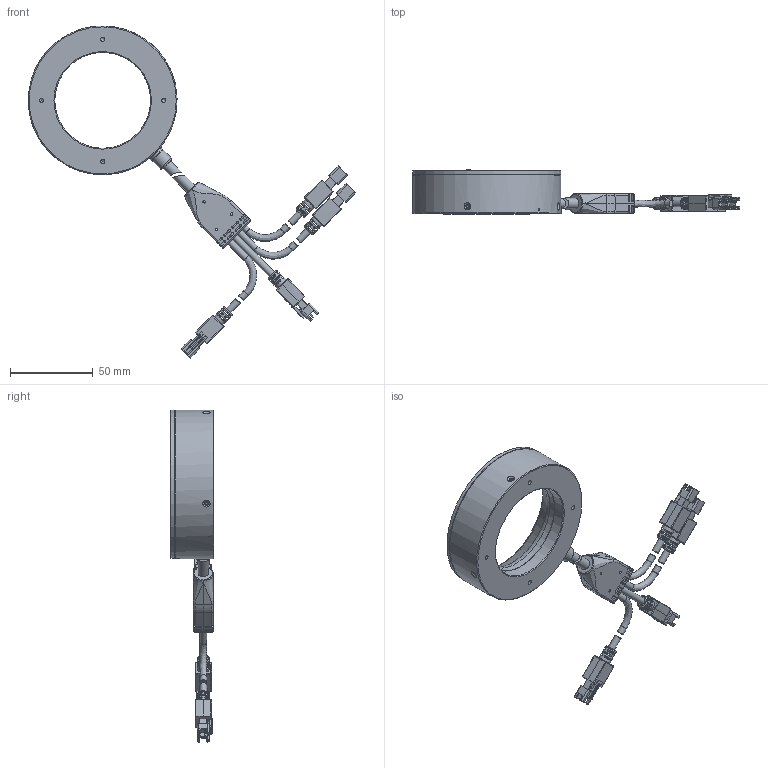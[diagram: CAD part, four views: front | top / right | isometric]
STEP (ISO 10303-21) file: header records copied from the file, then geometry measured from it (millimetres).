
FILE_DESCRIPTION (( 'STEP AP203' ), '1' );
FILE_NAME ('OPT-MSRI9060-X-V1.0尨砩芞.STEP', '2025-02-12T02:45:54', ( '' ), ( '' ), 'SwSTEP 2.0', 'SolidWorks 2016', '' );
FILE_SCHEMA (( 'CONFIG_CONTROL_DESIGN' ));
Length unit declared in the file: millimetre
Products named in the file (1): OPT-MSRI9060-X-V1.0尨砩芞
Bounding box: 197.86 x 26.5 x 200.86 mm (x, y, z)
Surface area: 51827.1 mm2 (no closed solid volume)
Topology: 0 solids, 33 shells, 1024 faces, 2853 edges, 1843 vertices
Faces by surface type: plane 551, cylinder 327, cone 67, bspline 60, torus 19
Full cylindrical faces by diameter (mm): 1.05 x2, 1.1 x6, 1.4 x4, 1.5 x3, 1.6 x4, 1.8 x4, 2 x4, 2.4 x4, 2.5 x4, 2.6 x4, 4.1 x10, 5 x1, 6.4 x2, 7.5 x4, 8.6 x1, 9.3 x1, 9.8 x1, 58 x2, 60 x1, 67.8 x1, 80 x1, 90 x2
Entity records: 39293 total; most frequent: CARTESIAN_POINT 15096, ORIENTED_EDGE 4959, DIRECTION 4512, EDGE_CURVE 2663, VERTEX_POINT 1787, VECTOR 1618, LINE 1618, AXIS2_PLACEMENT_3D 1447
